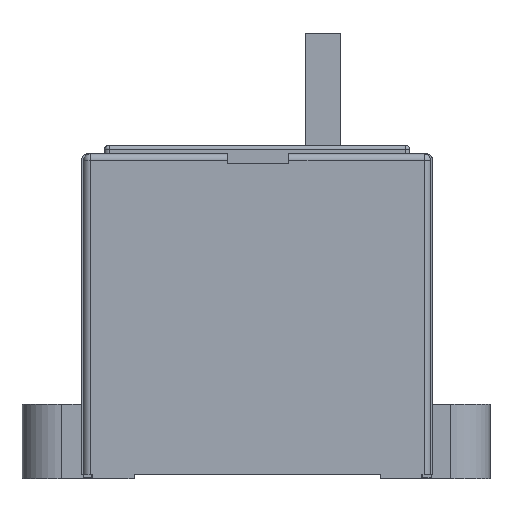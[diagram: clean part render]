
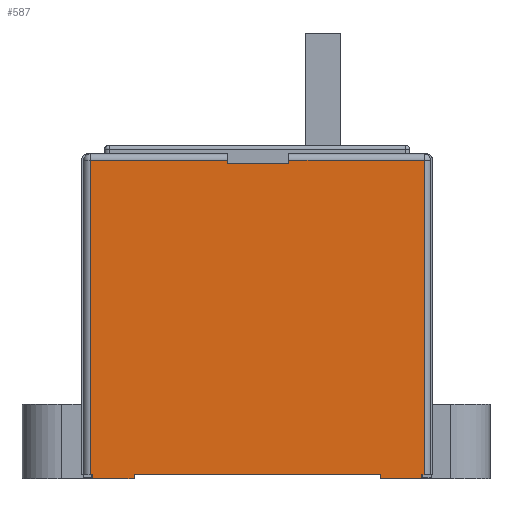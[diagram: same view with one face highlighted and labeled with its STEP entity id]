
A CAD part, left-side view. The second image highlights one B-rep face of the part: STEP entity #587.
In plain terms, the highlighted planar face has unit normal (-1, 0, 0).
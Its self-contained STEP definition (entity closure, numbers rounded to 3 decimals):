
#587=ADVANCED_FACE('',(#1173),#950,.F.);
#950=PLANE('',#6854);
#1173=FACE_OUTER_BOUND('',#1518,.T.);
#1518=EDGE_LOOP('',(#2340,#2341,#2342,#2343,#2344,#2345,#2346,#2347,#2348,
#2349,#2350,#2351,#2352,#2353,#2354,#2355));
#2340=ORIENTED_EDGE('',*,*,#4748,.F.);
#2341=ORIENTED_EDGE('',*,*,#4749,.T.);
#2342=ORIENTED_EDGE('',*,*,#4750,.T.);
#2343=ORIENTED_EDGE('',*,*,#4751,.F.);
#2344=ORIENTED_EDGE('',*,*,#4752,.T.);
#2345=ORIENTED_EDGE('',*,*,#4753,.T.);
#2346=ORIENTED_EDGE('',*,*,#4746,.T.);
#2347=ORIENTED_EDGE('',*,*,#4598,.T.);
#2348=ORIENTED_EDGE('',*,*,#4743,.F.);
#2349=ORIENTED_EDGE('',*,*,#4754,.F.);
#2350=ORIENTED_EDGE('',*,*,#4755,.T.);
#2351=ORIENTED_EDGE('',*,*,#4433,.T.);
#2352=ORIENTED_EDGE('',*,*,#4756,.F.);
#2353=ORIENTED_EDGE('',*,*,#4757,.F.);
#2354=ORIENTED_EDGE('',*,*,#4758,.T.);
#2355=ORIENTED_EDGE('',*,*,#4614,.T.);
#3823=VERTEX_POINT('',#9437);
#3824=VERTEX_POINT('',#9439);
#3980=VERTEX_POINT('',#9782);
#3981=VERTEX_POINT('',#9784);
#3992=VERTEX_POINT('',#9810);
#3995=VERTEX_POINT('',#9816);
#4075=VERTEX_POINT('',#10063);
#4077=VERTEX_POINT('',#10071);
#4078=VERTEX_POINT('',#10075);
#4079=VERTEX_POINT('',#10077);
#4080=VERTEX_POINT('',#10079);
#4081=VERTEX_POINT('',#10081);
#4082=VERTEX_POINT('',#10083);
#4083=VERTEX_POINT('',#10086);
#4084=VERTEX_POINT('',#10089);
#4085=VERTEX_POINT('',#10091);
#4433=EDGE_CURVE('',#3824,#3823,#5390,.T.);
#4598=EDGE_CURVE('',#3981,#3980,#5522,.T.);
#4614=EDGE_CURVE('',#3992,#3995,#5534,.T.);
#4743=EDGE_CURVE('',#4075,#3980,#5648,.T.);
#4746=EDGE_CURVE('',#4077,#3981,#5651,.T.);
#4748=EDGE_CURVE('',#4078,#3995,#5652,.T.);
#4749=EDGE_CURVE('',#4078,#4079,#5653,.T.);
#4750=EDGE_CURVE('',#4079,#4080,#5654,.T.);
#4751=EDGE_CURVE('',#4081,#4080,#5655,.T.);
#4752=EDGE_CURVE('',#4081,#4082,#5656,.T.);
#4753=EDGE_CURVE('',#4082,#4077,#5657,.T.);
#4754=EDGE_CURVE('',#4083,#4075,#5658,.T.);
#4755=EDGE_CURVE('',#4083,#3824,#5659,.T.);
#4756=EDGE_CURVE('',#4084,#3823,#5660,.T.);
#4757=EDGE_CURVE('',#4085,#4084,#5661,.T.);
#4758=EDGE_CURVE('',#4085,#3992,#5662,.T.);
#5390=LINE('',#9438,#6094);
#5522=LINE('',#9783,#6226);
#5534=LINE('',#9817,#6238);
#5648=LINE('',#10064,#6352);
#5651=LINE('',#10070,#6355);
#5652=LINE('',#10074,#6356);
#5653=LINE('',#10076,#6357);
#5654=LINE('',#10078,#6358);
#5655=LINE('',#10080,#6359);
#5656=LINE('',#10082,#6360);
#5657=LINE('',#10084,#6361);
#5658=LINE('',#10085,#6362);
#5659=LINE('',#10087,#6363);
#5660=LINE('',#10088,#6364);
#5661=LINE('',#10090,#6365);
#5662=LINE('',#10092,#6366);
#6094=VECTOR('',#7439,1.);
#6226=VECTOR('',#7683,1.);
#6238=VECTOR('',#7709,1.);
#6352=VECTOR('',#7929,1.);
#6355=VECTOR('',#7936,1.);
#6356=VECTOR('',#7941,1.);
#6357=VECTOR('',#7942,1.);
#6358=VECTOR('',#7943,1.);
#6359=VECTOR('',#7944,1.);
#6360=VECTOR('',#7945,1.);
#6361=VECTOR('',#7946,1.);
#6362=VECTOR('',#7947,1.);
#6363=VECTOR('',#7948,1.);
#6364=VECTOR('',#7949,1.);
#6365=VECTOR('',#7950,1.);
#6366=VECTOR('',#7951,1.);
#6854=AXIS2_PLACEMENT_3D('',#10093,#7952,#7953);
#7439=DIRECTION('',(0.,-1.,0.));
#7683=DIRECTION('',(0.,-1.,0.));
#7709=DIRECTION('',(0.,-1.,0.));
#7929=DIRECTION('',(0.,0.,1.));
#7936=DIRECTION('',(0.,0.,-1.));
#7941=DIRECTION('',(0.,0.,-1.));
#7942=DIRECTION('',(0.,1.,0.));
#7943=DIRECTION('',(0.,0.,-1.));
#7944=DIRECTION('',(0.,-1.,0.));
#7945=DIRECTION('',(0.,0.,1.));
#7946=DIRECTION('',(0.,1.,0.));
#7947=DIRECTION('',(0.,1.,0.));
#7948=DIRECTION('',(0.,0.,1.));
#7949=DIRECTION('',(0.,0.,1.));
#7950=DIRECTION('',(0.,1.,0.));
#7951=DIRECTION('',(0.,0.,1.));
#7952=DIRECTION('',(1.,0.,0.));
#7953=DIRECTION('',(0.,0.,-1.));
#9437=CARTESIAN_POINT('',(-66.,-28.,1.));
#9438=CARTESIAN_POINT('',(-66.,-37.5,1.));
#9439=CARTESIAN_POINT('',(-66.,28.,1.));
#9782=CARTESIAN_POINT('',(-66.,37.5,1.));
#9783=CARTESIAN_POINT('',(-66.,-37.5,1.));
#9784=CARTESIAN_POINT('',(-66.,38.,1.));
#9810=CARTESIAN_POINT('',(-66.,-37.5,1.));
#9816=CARTESIAN_POINT('',(-66.,-38.,1.));
#9817=CARTESIAN_POINT('',(-66.,-37.5,1.));
#10063=CARTESIAN_POINT('',(-66.,37.5,0.));
#10064=CARTESIAN_POINT('',(-66.,37.5,-1.));
#10070=CARTESIAN_POINT('',(-66.,38.,74.));
#10071=CARTESIAN_POINT('',(-66.,38.,72.5));
#10074=CARTESIAN_POINT('',(-66.,-38.,74.));
#10075=CARTESIAN_POINT('',(-66.,-38.,72.5));
#10076=CARTESIAN_POINT('',(-66.,38.,72.5));
#10077=CARTESIAN_POINT('',(-66.,-7.25,72.5));
#10078=CARTESIAN_POINT('',(-66.,-7.25,74.));
#10079=CARTESIAN_POINT('',(-66.,-7.25,71.9));
#10080=CARTESIAN_POINT('',(-66.,37.5,71.9));
#10081=CARTESIAN_POINT('',(-66.,6.75,71.9));
#10082=CARTESIAN_POINT('',(-66.,6.75,74.));
#10083=CARTESIAN_POINT('',(-66.,6.75,72.5));
#10084=CARTESIAN_POINT('',(-66.,38.,72.5));
#10085=CARTESIAN_POINT('',(-66.,28.,0.));
#10086=CARTESIAN_POINT('',(-66.,28.,0.));
#10087=CARTESIAN_POINT('',(-66.,28.,-1.));
#10088=CARTESIAN_POINT('',(-66.,-28.,-1.));
#10089=CARTESIAN_POINT('',(-66.,-28.,0.));
#10090=CARTESIAN_POINT('',(-66.,-37.5,0.));
#10091=CARTESIAN_POINT('',(-66.,-37.5,0.));
#10092=CARTESIAN_POINT('',(-66.,-37.5,-1.));
#10093=CARTESIAN_POINT('',(-66.,-37.5,74.));
